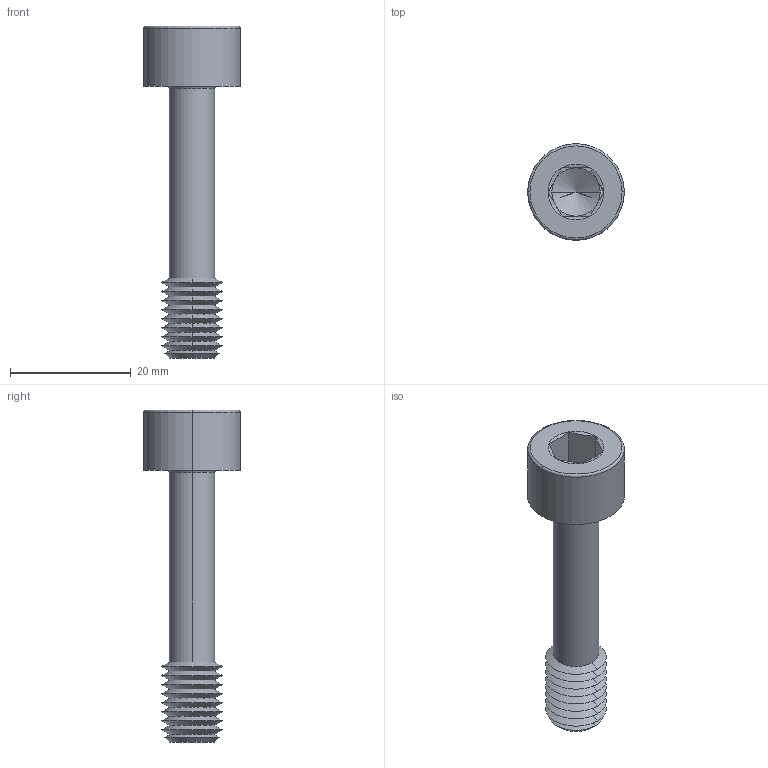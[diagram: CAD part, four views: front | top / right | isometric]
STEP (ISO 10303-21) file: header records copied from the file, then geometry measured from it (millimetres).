
FILE_DESCRIPTION (( 'STEP AP203' ), '1' );
FILE_NAME ('P0154.100-045-BL.step', '2024-06-17T11:34:38', ( '' ), ( '' ), 'SwSTEP 2.0', 'SolidWorks 2019', '' );
FILE_SCHEMA (( 'CONFIG_CONTROL_DESIGN' ));
Length unit declared in the file: millimetre
Products named in the file (1): P0154.100-045-BL
Bounding box: 16 x 16 x 55 mm (x, y, z)
Volume: 3714.8 mm3; surface area: 2575 mm2
Topology: 1 solids, 1 shells, 67 faces, 136 edges, 71 vertices
Faces by surface type: cone 44, plane 15, torus 4, cylinder 4
Entity records: 1791 total; most frequent: DIRECTION 332, CARTESIAN_POINT 303, ORIENTED_EDGE 268, AXIS2_PLACEMENT_3D 136, EDGE_CURVE 134, VERTEX_POINT 71, EDGE_LOOP 69, CIRCLE 68
